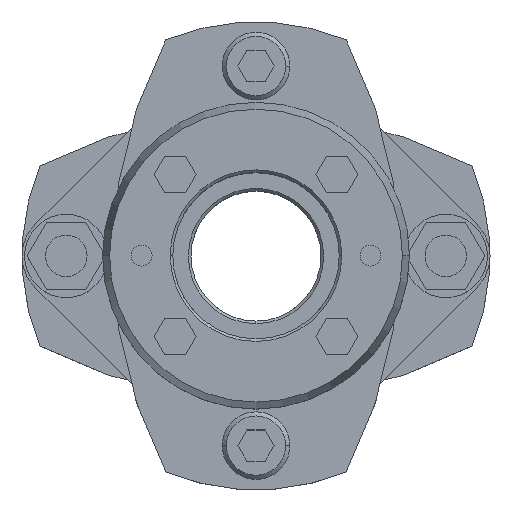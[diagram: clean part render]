
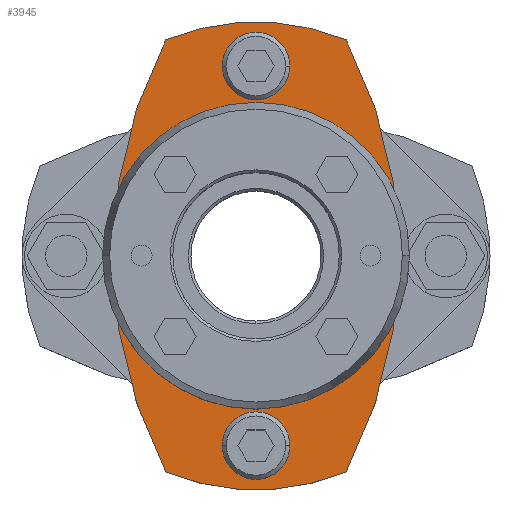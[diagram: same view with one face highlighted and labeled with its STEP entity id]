
A CAD part, top view. The second image highlights one B-rep face of the part: STEP entity #3945.
In plain terms, the highlighted planar face has unit normal (0, 0, 1).
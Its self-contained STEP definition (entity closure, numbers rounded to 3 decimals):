
#1385=CARTESIAN_POINT('',(27.5,0.,14.25));
#1386=VERTEX_POINT('',#1385);
#1395=CARTESIAN_POINT('',(17.35,-41.521,14.25));
#1396=VERTEX_POINT('',#1395);
#1397=CARTESIAN_POINT('',(-62.5,0.,14.25));
#1398=DIRECTION('',(0.0,0.0,-1.0));
#1399=DIRECTION('',(-1.0,0.0,0.0));
#1400=AXIS2_PLACEMENT_3D('',#1397,#1398,#1399);
#1401=CIRCLE('',#1400,90.);
#1402=EDGE_CURVE('',#1386,#1396,#1401,.T.);
#1429=CARTESIAN_POINT('',(-27.5,0.,14.25));
#1430=VERTEX_POINT('',#1429);
#1446=CARTESIAN_POINT('',(-17.35,-41.521,14.25));
#1447=VERTEX_POINT('',#1446);
#1454=CARTESIAN_POINT('',(62.5,0.,14.25));
#1455=DIRECTION('',(0.0,0.0,-1.0));
#1456=DIRECTION('',(-1.0,0.0,0.0));
#1457=AXIS2_PLACEMENT_3D('',#1454,#1455,#1456);
#1458=CIRCLE('',#1457,90.);
#1459=EDGE_CURVE('',#1447,#1430,#1458,.T.);
#1693=CARTESIAN_POINT('',(-26.,0.,14.25));
#1694=VERTEX_POINT('',#1693);
#1744=CARTESIAN_POINT('',(26.,0.,14.25));
#1745=VERTEX_POINT('',#1744);
#1752=CARTESIAN_POINT('',(0.,0.,14.25));
#1753=DIRECTION('',(0.0,0.0,-1.0));
#1754=DIRECTION('',(-1.0,0.0,0.0));
#1755=AXIS2_PLACEMENT_3D('',#1752,#1753,#1754);
#1756=CIRCLE('',#1755,26.0);
#1757=EDGE_CURVE('',#1694,#1745,#1756,.T.);
#1769=CARTESIAN_POINT('',(-6.5,-36.5,14.25));
#1770=VERTEX_POINT('',#1769);
#1786=CARTESIAN_POINT('',(6.5,-36.5,14.25));
#1787=VERTEX_POINT('',#1786);
#1794=CARTESIAN_POINT('',(0.,-36.5,14.25));
#1795=DIRECTION('',(0.0,0.0,-1.0));
#1796=DIRECTION('',(-1.0,0.0,0.0));
#1797=AXIS2_PLACEMENT_3D('',#1794,#1795,#1796);
#1798=CIRCLE('',#1797,6.5);
#1799=EDGE_CURVE('',#1770,#1787,#1798,.T.);
#1843=CARTESIAN_POINT('',(-6.5,36.5,14.25));
#1844=VERTEX_POINT('',#1843);
#1860=CARTESIAN_POINT('',(6.5,36.5,14.25));
#1861=VERTEX_POINT('',#1860);
#1868=CARTESIAN_POINT('',(0.,36.5,14.25));
#1869=DIRECTION('',(0.0,0.0,-1.0));
#1870=DIRECTION('',(-1.0,0.0,0.0));
#1871=AXIS2_PLACEMENT_3D('',#1868,#1869,#1870);
#1872=CIRCLE('',#1871,6.5);
#1873=EDGE_CURVE('',#1844,#1861,#1872,.T.);
#3364=CARTESIAN_POINT('',(0.,36.5,14.25));
#3365=DIRECTION('',(0.0,0.0,-1.0));
#3366=DIRECTION('',(-1.0,0.0,0.0));
#3367=AXIS2_PLACEMENT_3D('',#3364,#3365,#3366);
#3368=CIRCLE('',#3367,6.5);
#3369=EDGE_CURVE('',#1861,#1844,#3368,.T.);
#3424=CARTESIAN_POINT('',(0.,-36.5,14.25));
#3425=DIRECTION('',(0.0,0.0,-1.0));
#3426=DIRECTION('',(-1.0,0.0,0.0));
#3427=AXIS2_PLACEMENT_3D('',#3424,#3425,#3426);
#3428=CIRCLE('',#3427,6.5);
#3429=EDGE_CURVE('',#1787,#1770,#3428,.T.);
#3628=CARTESIAN_POINT('',(0.,0.,14.25));
#3629=DIRECTION('',(0.0,0.0,-1.0));
#3630=DIRECTION('',(-1.0,0.0,0.0));
#3631=AXIS2_PLACEMENT_3D('',#3628,#3629,#3630);
#3632=CIRCLE('',#3631,26.0);
#3633=EDGE_CURVE('',#1745,#1694,#3632,.T.);
#3839=CARTESIAN_POINT('',(0.,0.,14.25));
#3840=DIRECTION('',(0.0,0.0,-1.0));
#3841=DIRECTION('',(-1.0,0.0,0.0));
#3842=AXIS2_PLACEMENT_3D('',#3839,#3840,#3841);
#3843=CIRCLE('',#3842,45.);
#3844=EDGE_CURVE('',#1396,#1447,#3843,.T.);
#3858=CARTESIAN_POINT('',(-17.35,41.521,14.25));
#3859=VERTEX_POINT('',#3858);
#3860=CARTESIAN_POINT('',(62.5,0.,14.25));
#3861=DIRECTION('',(0.0,0.0,-1.0));
#3862=DIRECTION('',(-1.0,0.0,0.0));
#3863=AXIS2_PLACEMENT_3D('',#3860,#3861,#3862);
#3864=CIRCLE('',#3863,90.);
#3865=EDGE_CURVE('',#1430,#3859,#3864,.T.);
#3882=CARTESIAN_POINT('',(17.35,41.521,14.25));
#3883=VERTEX_POINT('',#3882);
#3884=CARTESIAN_POINT('',(0.,0.,14.25));
#3885=DIRECTION('',(0.0,0.0,-1.0));
#3886=DIRECTION('',(-1.0,0.0,0.0));
#3887=AXIS2_PLACEMENT_3D('',#3884,#3885,#3886);
#3888=CIRCLE('',#3887,45.);
#3889=EDGE_CURVE('',#3859,#3883,#3888,.T.);
#3910=CARTESIAN_POINT('',(-62.5,0.,14.25));
#3911=DIRECTION('',(0.0,0.0,-1.0));
#3912=DIRECTION('',(-1.0,0.0,0.0));
#3913=AXIS2_PLACEMENT_3D('',#3910,#3911,#3912);
#3914=CIRCLE('',#3913,90.);
#3915=EDGE_CURVE('',#3883,#1386,#3914,.T.);
#3920=CARTESIAN_POINT('',(0.,0.,14.25));
#3921=DIRECTION('',(0.0,0.0,1.0));
#3922=DIRECTION('',(-1.0,0.0,0.0));
#3923=AXIS2_PLACEMENT_3D('',#3920,#3921,#3922);
#3924=PLANE('',#3923);
#3925=ORIENTED_EDGE('',*,*,#3844,.F.);
#3926=ORIENTED_EDGE('',*,*,#1402,.F.);
#3927=ORIENTED_EDGE('',*,*,#3915,.F.);
#3928=ORIENTED_EDGE('',*,*,#3889,.F.);
#3929=ORIENTED_EDGE('',*,*,#3865,.F.);
#3930=ORIENTED_EDGE('',*,*,#1459,.F.);
#3931=EDGE_LOOP('',(#3925,#3926,#3927,#3928,#3929,#3930));
#3932=FACE_OUTER_BOUND('',#3931,.T.);
#3933=ORIENTED_EDGE('',*,*,#1799,.T.);
#3934=ORIENTED_EDGE('',*,*,#3429,.T.);
#3935=EDGE_LOOP('',(#3933,#3934));
#3936=FACE_BOUND('',#3935,.T.);
#3937=ORIENTED_EDGE('',*,*,#1873,.T.);
#3938=ORIENTED_EDGE('',*,*,#3369,.T.);
#3939=EDGE_LOOP('',(#3937,#3938));
#3940=FACE_BOUND('',#3939,.T.);
#3941=ORIENTED_EDGE('',*,*,#1757,.T.);
#3942=ORIENTED_EDGE('',*,*,#3633,.T.);
#3943=EDGE_LOOP('',(#3941,#3942));
#3944=FACE_BOUND('',#3943,.T.);
#3945=ADVANCED_FACE('',(#3932,#3936,#3940,#3944),#3924,.T.);
